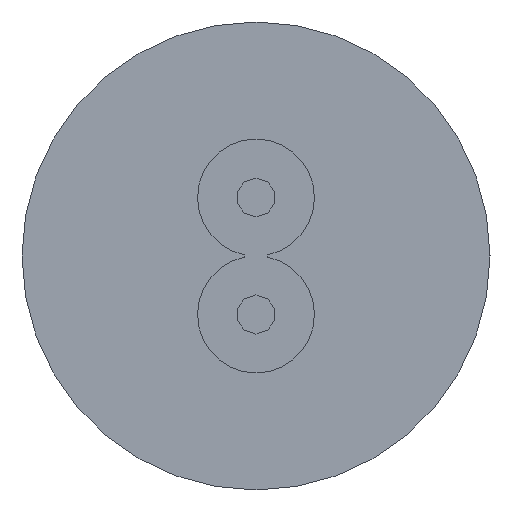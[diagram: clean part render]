
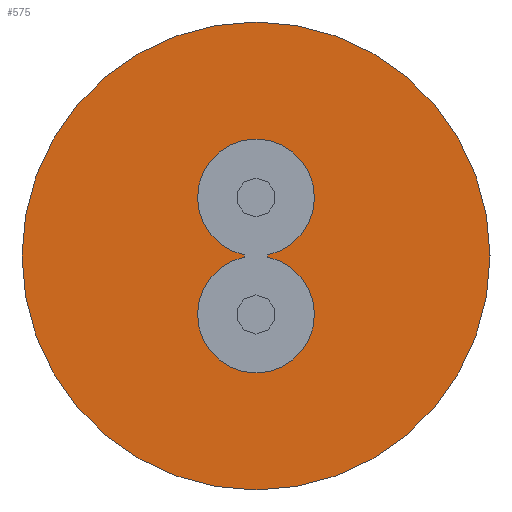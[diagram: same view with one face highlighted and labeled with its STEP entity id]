
A CAD part, left-side view. The second image highlights one B-rep face of the part: STEP entity #575.
In plain terms, the highlighted planar face has unit normal (-1, 0, 0).
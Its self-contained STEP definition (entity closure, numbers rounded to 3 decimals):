
#56 = CARTESIAN_POINT ( 'NONE',  ( -25., 0., 3. ) ) ;
#57 = CARTESIAN_POINT ( 'NONE',  ( -25., 0., -3. ) ) ;
#59 = CARTESIAN_POINT ( 'NONE',  ( -25., -0.15, -0.015 ) ) ;
#63 = CARTESIAN_POINT ( 'NONE',  ( -25., -0.15, 0.015 ) ) ;
#67 = CARTESIAN_POINT ( 'NONE',  ( -25., 0.15, -0.015 ) ) ;
#68 = CARTESIAN_POINT ( 'NONE',  ( -25., 0., -1.5 ) ) ;
#130 = DIRECTION ( 'NONE',  ( 0., 0., 1. ) ) ;
#131 = DIRECTION ( 'NONE',  ( -1., 0., 0. ) ) ;
#132 = CARTESIAN_POINT ( 'NONE',  ( -25., 0., 0.75 ) ) ;
#133 = DIRECTION ( 'NONE',  ( 0., 0., 1. ) ) ;
#134 = DIRECTION ( 'NONE',  ( -1., 0., 0. ) ) ;
#135 = CARTESIAN_POINT ( 'NONE',  ( -25., 0., -0.75 ) ) ;
#136 = CARTESIAN_POINT ( 'NONE',  ( -25., 0.15, -0.015 ) ) ;
#141 = DIRECTION ( 'NONE',  ( 0., 0., -1. ) ) ;
#143 = DIRECTION ( 'NONE',  ( 0., 0., -1. ) ) ;
#144 = DIRECTION ( 'NONE',  ( 1., 0., 0. ) ) ;
#145 = CARTESIAN_POINT ( 'NONE',  ( -25., 0., 0. ) ) ;
#146 = DIRECTION ( 'NONE',  ( 0., 0., 1. ) ) ;
#147 = CARTESIAN_POINT ( 'NONE',  ( -25., -0.15, -0.015 ) ) ;
#169 = DIRECTION ( 'NONE',  ( 0., 0., -1. ) ) ;
#170 = DIRECTION ( 'NONE',  ( 1., 0., 0. ) ) ;
#171 = CARTESIAN_POINT ( 'NONE',  ( -25., 0., 0. ) ) ;
#181 = DIRECTION ( 'NONE',  ( 0., 0., 1. ) ) ;
#182 = DIRECTION ( 'NONE',  ( -1., 0., 0. ) ) ;
#183 = CARTESIAN_POINT ( 'NONE',  ( -25., 0., -0.75 ) ) ;
#268 = DIRECTION ( 'NONE',  ( 0., 0., -1. ) ) ;
#269 = DIRECTION ( 'NONE',  ( 1., 0., 0. ) ) ;
#270 = CARTESIAN_POINT ( 'NONE',  ( -25., 0., 0. ) ) ;
#277 = PLANE ( 'NONE',  #639 ) ;
#308 = CARTESIAN_POINT ( 'NONE',  ( -25., 0.15, 0.015 ) ) ;
#347 = VECTOR ( 'NONE', #141, 1000. ) ;
#349 = CIRCLE ( 'NONE', #593, 0.75 ) ;
#350 = VECTOR ( 'NONE', #146, 1000. ) ;
#351 = CIRCLE ( 'NONE', #594, 0.75 ) ;
#352 = LINE ( 'NONE', #147, #350 ) ;
#355 = LINE ( 'NONE', #136, #347 ) ;
#356 = CIRCLE ( 'NONE', #596, 3. ) ;
#371 = CIRCLE ( 'NONE', #600, 3. ) ;
#380 = CIRCLE ( 'NONE', #602, 0.75 ) ;
#414 = FACE_BOUND ( 'NONE', #530, .T. ) ;
#418 = FACE_OUTER_BOUND ( 'NONE', #546, .T. ) ;
#478 = ORIENTED_EDGE ( 'NONE', *, *, #695, .F. ) ;
#479 = ORIENTED_EDGE ( 'NONE', *, *, #705, .F. ) ;
#480 = ORIENTED_EDGE ( 'NONE', *, *, #707, .F. ) ;
#481 = ORIENTED_EDGE ( 'NONE', *, *, #691, .F. ) ;
#482 = ORIENTED_EDGE ( 'NONE', *, *, #708, .F. ) ;
#483 = ORIENTED_EDGE ( 'NONE', *, *, #709, .F. ) ;
#484 = ORIENTED_EDGE ( 'NONE', *, *, #710, .F. ) ;
#526 = VERTEX_POINT ( 'NONE', #308 ) ;
#527 = VERTEX_POINT ( 'NONE', #63 ) ;
#529 = VERTEX_POINT ( 'NONE', #67 ) ;
#530 = EDGE_LOOP ( 'NONE', ( #480, #481, #482, #483, #484 ) ) ;
#546 = EDGE_LOOP ( 'NONE', ( #478, #479 ) ) ;
#552 = VERTEX_POINT ( 'NONE', #68 ) ;
#555 = VERTEX_POINT ( 'NONE', #59 ) ;
#557 = VERTEX_POINT ( 'NONE', #57 ) ;
#558 = VERTEX_POINT ( 'NONE', #56 ) ;
#575 = ADVANCED_FACE ( 'NONE', ( #418, #414 ), #277, .F. ) ;
#593 = AXIS2_PLACEMENT_3D ( 'NONE', #132, #131, #130 ) ;
#594 = AXIS2_PLACEMENT_3D ( 'NONE', #135, #134, #133 ) ;
#596 = AXIS2_PLACEMENT_3D ( 'NONE', #145, #144, #143 ) ;
#600 = AXIS2_PLACEMENT_3D ( 'NONE', #171, #170, #169 ) ;
#602 = AXIS2_PLACEMENT_3D ( 'NONE', #183, #182, #181 ) ;
#639 = AXIS2_PLACEMENT_3D ( 'NONE', #270, #269, #268 ) ;
#691 = EDGE_CURVE ( 'NONE', #552, #555, #380, .T. ) ;
#695 = EDGE_CURVE ( 'NONE', #557, #558, #371, .T. ) ;
#705 = EDGE_CURVE ( 'NONE', #558, #557, #356, .T. ) ;
#707 = EDGE_CURVE ( 'NONE', #555, #527, #352, .T. ) ;
#708 = EDGE_CURVE ( 'NONE', #529, #552, #351, .T. ) ;
#709 = EDGE_CURVE ( 'NONE', #526, #529, #355, .T. ) ;
#710 = EDGE_CURVE ( 'NONE', #527, #526, #349, .T. ) ;
